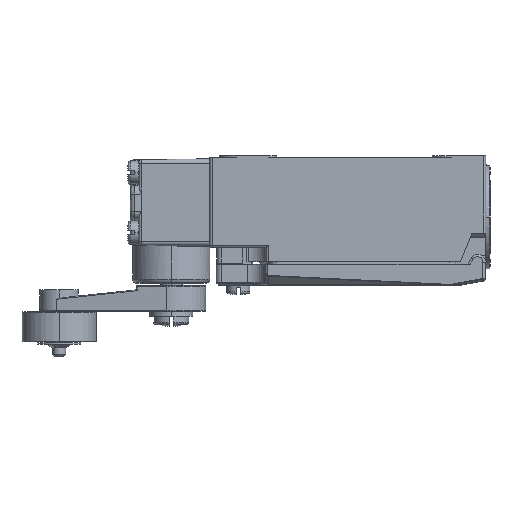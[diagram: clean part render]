
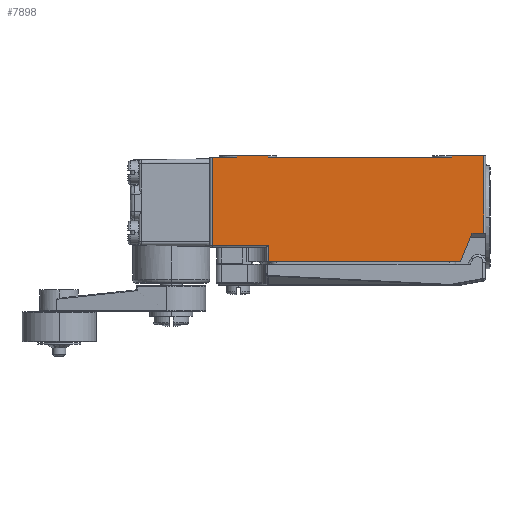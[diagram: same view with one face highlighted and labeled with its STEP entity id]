
A CAD part, left-side view. The second image highlights one B-rep face of the part: STEP entity #7898.
In plain terms, the highlighted planar face has unit normal (-1, 0, 0).
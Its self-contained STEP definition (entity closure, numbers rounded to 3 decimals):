
#1517=B_SPLINE_CURVE_WITH_KNOTS('',3,(#47639,#47640,#47641,#47642),
 .UNSPECIFIED.,.F.,.F.,(4,4),(0.,1.),.UNSPECIFIED.);
#1518=B_SPLINE_CURVE_WITH_KNOTS('',3,(#47759,#47760,#47761,#47762),
 .UNSPECIFIED.,.F.,.F.,(4,4),(0.,1.),.UNSPECIFIED.);
#1519=B_SPLINE_CURVE_WITH_KNOTS('',3,(#47763,#47764,#47765,#47766),
 .UNSPECIFIED.,.F.,.F.,(4,4),(0.,1.),.UNSPECIFIED.);
#1520=B_SPLINE_CURVE_WITH_KNOTS('',3,(#47768,#47769,#47770,#47771),
 .UNSPECIFIED.,.F.,.F.,(4,4),(0.,1.),.UNSPECIFIED.);
#1521=B_SPLINE_CURVE_WITH_KNOTS('',3,(#47773,#47774,#47775,#47776),
 .UNSPECIFIED.,.F.,.F.,(4,4),(0.,1.),.UNSPECIFIED.);
#1522=B_SPLINE_CURVE_WITH_KNOTS('',3,(#47784,#47785,#47786,#47787),
 .UNSPECIFIED.,.F.,.F.,(4,4),(0.,1.),.UNSPECIFIED.);
#1523=B_SPLINE_CURVE_WITH_KNOTS('',3,(#47788,#47789,#47790,#47791),
 .UNSPECIFIED.,.F.,.F.,(4,4),(0.,1.),.UNSPECIFIED.);
#1524=B_SPLINE_CURVE_WITH_KNOTS('',3,(#47792,#47793,#47794,#47795),
 .UNSPECIFIED.,.F.,.F.,(4,4),(0.,1.),.UNSPECIFIED.);
#2586=LINE('',#47623,#5315);
#2623=LINE('',#47742,#5352);
#2628=LINE('',#47756,#5357);
#2629=LINE('',#47778,#5358);
#2630=LINE('',#47780,#5359);
#2631=LINE('',#47782,#5360);
#5315=VECTOR('',#37162,1.);
#5352=VECTOR('',#37273,1.);
#5357=VECTOR('',#37284,1.);
#5358=VECTOR('',#37285,1.);
#5359=VECTOR('',#37286,1.);
#5360=VECTOR('',#37287,1.);
#7898=ADVANCED_FACE('',(#10567),#9646,.F.);
#9646=PLANE('',#33468);
#10567=FACE_OUTER_BOUND('',#12317,.T.);
#12317=EDGE_LOOP('',(#15027,#15028,#15029,#15030,#15031,#15032,#15033,#15034,
#15035,#15036,#15037,#15038,#15039,#15040));
#15027=ORIENTED_EDGE('',*,*,#27578,.F.);
#15028=ORIENTED_EDGE('',*,*,#27579,.F.);
#15029=ORIENTED_EDGE('',*,*,#27514,.F.);
#15030=ORIENTED_EDGE('',*,*,#27580,.T.);
#15031=ORIENTED_EDGE('',*,*,#27581,.T.);
#15032=ORIENTED_EDGE('',*,*,#27582,.T.);
#15033=ORIENTED_EDGE('',*,*,#27583,.T.);
#15034=ORIENTED_EDGE('',*,*,#27584,.F.);
#15035=ORIENTED_EDGE('',*,*,#27585,.F.);
#15036=ORIENTED_EDGE('',*,*,#27586,.T.);
#15037=ORIENTED_EDGE('',*,*,#27571,.F.);
#15038=ORIENTED_EDGE('',*,*,#27587,.T.);
#15039=ORIENTED_EDGE('',*,*,#27522,.F.);
#15040=ORIENTED_EDGE('',*,*,#27588,.T.);
#24184=VERTEX_POINT('',#47622);
#24185=VERTEX_POINT('',#47624);
#24192=VERTEX_POINT('',#47638);
#24193=VERTEX_POINT('',#47643);
#24224=VERTEX_POINT('',#47739);
#24225=VERTEX_POINT('',#47741);
#24232=VERTEX_POINT('',#47757);
#24233=VERTEX_POINT('',#47758);
#24234=VERTEX_POINT('',#47767);
#24235=VERTEX_POINT('',#47772);
#24236=VERTEX_POINT('',#47777);
#24237=VERTEX_POINT('',#47779);
#24238=VERTEX_POINT('',#47781);
#24239=VERTEX_POINT('',#47783);
#27514=EDGE_CURVE('',#24184,#24185,#2586,.T.);
#27522=EDGE_CURVE('',#24192,#24193,#1517,.T.);
#27571=EDGE_CURVE('',#24225,#24224,#2623,.T.);
#27578=EDGE_CURVE('',#24232,#24233,#2628,.T.);
#27579=EDGE_CURVE('',#24185,#24232,#1518,.T.);
#27580=EDGE_CURVE('',#24184,#24234,#1519,.T.);
#27581=EDGE_CURVE('',#24234,#24235,#1520,.T.);
#27582=EDGE_CURVE('',#24235,#24236,#1521,.T.);
#27583=EDGE_CURVE('',#24236,#24237,#2629,.T.);
#27584=EDGE_CURVE('',#24238,#24237,#2630,.T.);
#27585=EDGE_CURVE('',#24239,#24238,#2631,.T.);
#27586=EDGE_CURVE('',#24239,#24224,#1522,.T.);
#27587=EDGE_CURVE('',#24225,#24193,#1523,.T.);
#27588=EDGE_CURVE('',#24192,#24233,#1524,.T.);
#33468=AXIS2_PLACEMENT_3D('',#47796,#37288,#37289);
#37162=DIRECTION('',(0.,-1.,0.));
#37273=DIRECTION('',(0.,-1.,0.));
#37284=DIRECTION('',(0.,-1.,0.));
#37285=DIRECTION('',(0.,-1.,0.));
#37286=DIRECTION('',(0.,0.371,-0.928));
#37287=DIRECTION('',(0.,1.,0.));
#37288=DIRECTION('',(1.,0.,0.));
#37289=DIRECTION('',(0.,1.,0.));
#47622=CARTESIAN_POINT('',(160.488,12.728,24.587));
#47623=CARTESIAN_POINT('',(160.488,-50.973,24.587));
#47624=CARTESIAN_POINT('',(160.488,7.025,24.587));
#47638=CARTESIAN_POINT('',(160.488,-0.294,24.587));
#47639=CARTESIAN_POINT('',(160.488,-0.294,24.587));
#47640=CARTESIAN_POINT('',(160.488,-14.536,24.587));
#47641=CARTESIAN_POINT('',(160.488,-28.778,24.587));
#47642=CARTESIAN_POINT('',(160.488,-43.02,24.587));
#47643=CARTESIAN_POINT('',(160.488,-43.021,24.587));
#47739=CARTESIAN_POINT('',(160.488,-50.474,24.937));
#47741=CARTESIAN_POINT('',(160.488,-43.022,24.937));
#47742=CARTESIAN_POINT('',(160.488,-43.023,24.937));
#47756=CARTESIAN_POINT('',(160.488,7.028,24.937));
#47757=CARTESIAN_POINT('',(160.488,7.026,24.937));
#47758=CARTESIAN_POINT('',(160.488,-0.297,24.937));
#47759=CARTESIAN_POINT('',(160.488,7.025,24.587));
#47760=CARTESIAN_POINT('',(160.488,7.025,24.704));
#47761=CARTESIAN_POINT('',(160.488,7.026,24.82));
#47762=CARTESIAN_POINT('',(160.488,7.026,24.937));
#47763=CARTESIAN_POINT('',(160.488,12.728,24.587));
#47764=CARTESIAN_POINT('',(160.488,12.727,17.737));
#47765=CARTESIAN_POINT('',(160.488,12.727,10.887));
#47766=CARTESIAN_POINT('',(160.488,12.727,4.037));
#47767=CARTESIAN_POINT('',(160.488,12.727,4.037));
#47768=CARTESIAN_POINT('',(160.488,12.727,4.037));
#47769=CARTESIAN_POINT('',(160.488,8.36,4.037));
#47770=CARTESIAN_POINT('',(160.488,3.993,4.037));
#47771=CARTESIAN_POINT('',(160.488,-0.374,4.037));
#47772=CARTESIAN_POINT('',(160.488,-0.374,4.037));
#47773=CARTESIAN_POINT('',(160.488,-0.374,4.037));
#47774=CARTESIAN_POINT('',(160.488,-0.374,2.754));
#47775=CARTESIAN_POINT('',(160.488,-0.374,1.47));
#47776=CARTESIAN_POINT('',(160.488,-0.374,0.187));
#47777=CARTESIAN_POINT('',(160.488,-0.374,0.187));
#47778=CARTESIAN_POINT('',(160.488,7.028,0.187));
#47779=CARTESIAN_POINT('',(160.488,-45.093,0.187));
#47780=CARTESIAN_POINT('',(160.488,-46.439,3.55));
#47781=CARTESIAN_POINT('',(160.488,-47.773,6.887));
#47782=CARTESIAN_POINT('',(160.488,7.028,6.887));
#47783=CARTESIAN_POINT('',(160.488,-50.474,6.887));
#47784=CARTESIAN_POINT('',(160.488,-50.474,6.887));
#47785=CARTESIAN_POINT('',(160.488,-50.474,12.904));
#47786=CARTESIAN_POINT('',(160.488,-50.474,18.92));
#47787=CARTESIAN_POINT('',(160.488,-50.474,24.937));
#47788=CARTESIAN_POINT('',(160.488,-43.022,24.937));
#47789=CARTESIAN_POINT('',(160.488,-43.022,24.82));
#47790=CARTESIAN_POINT('',(160.488,-43.022,24.704));
#47791=CARTESIAN_POINT('',(160.488,-43.022,24.587));
#47792=CARTESIAN_POINT('',(160.488,-0.294,24.587));
#47793=CARTESIAN_POINT('',(160.488,-0.294,24.704));
#47794=CARTESIAN_POINT('',(160.488,-0.295,24.82));
#47795=CARTESIAN_POINT('',(160.488,-0.295,24.937));
#47796=CARTESIAN_POINT('',(160.488,7.028,24.937));
